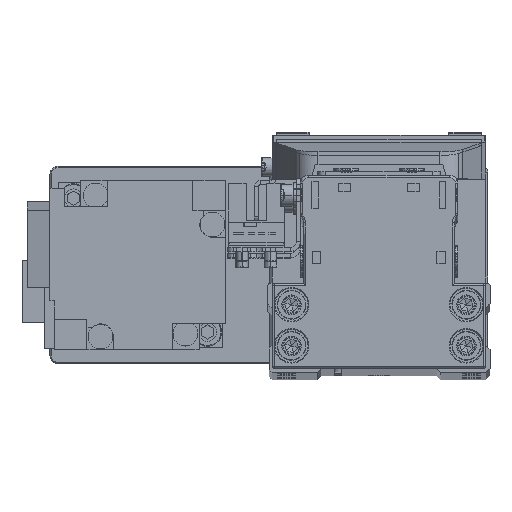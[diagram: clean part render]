
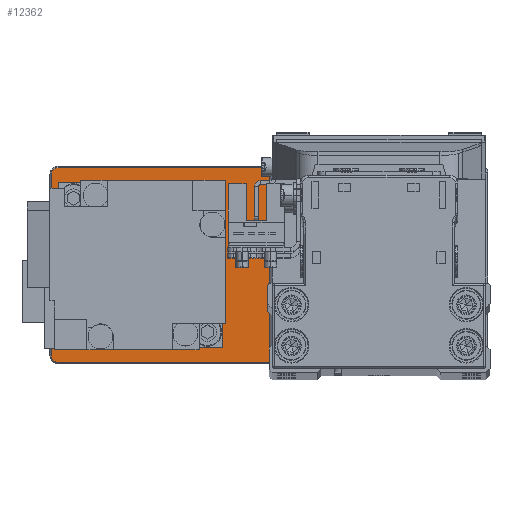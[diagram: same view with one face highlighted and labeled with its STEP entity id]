
A CAD part, top view. The second image highlights one B-rep face of the part: STEP entity #12362.
In plain terms, the highlighted planar face has unit normal (0, 0, 1).
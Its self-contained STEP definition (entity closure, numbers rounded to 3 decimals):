
#210 = LINE ( 'NONE', #12796, #14272 ) ;
#244 = VERTEX_POINT ( 'NONE', #10609 ) ;
#328 = CARTESIAN_POINT ( 'NONE',  ( 50., -22., 5. ) ) ;
#1324 = ORIENTED_EDGE ( 'NONE', *, *, #25779, .T. ) ;
#1518 = EDGE_LOOP ( 'NONE', ( #21519, #24903 ) ) ;
#2108 = CARTESIAN_POINT ( 'NONE',  ( 42.8, 0., 5. ) ) ;
#2549 = DIRECTION ( 'NONE',  ( 1., 0., 0. ) ) ;
#3132 = ORIENTED_EDGE ( 'NONE', *, *, #34735, .T. ) ;
#3897 = CARTESIAN_POINT ( 'NONE',  ( 50., 22., 5. ) ) ;
#4432 = CIRCLE ( 'NONE', #27510, 10.3 ) ;
#4785 = CARTESIAN_POINT ( 'NONE',  ( 30., 0., 5. ) ) ;
#5398 = CARTESIAN_POINT ( 'NONE',  ( 0., 0., 5. ) ) ;
#5582 = DIRECTION ( 'NONE',  ( 1., 0., 0. ) ) ;
#6315 = CIRCLE ( 'NONE', #29400, 12.8 ) ;
#6924 = ORIENTED_EDGE ( 'NONE', *, *, #23974, .T. ) ;
#6986 = VERTEX_POINT ( 'NONE', #17984 ) ;
#7052 = AXIS2_PLACEMENT_3D ( 'NONE', #21288, #33865, #5582 ) ;
#7252 = LINE ( 'NONE', #19867, #33540 ) ;
#7358 = DIRECTION ( 'NONE',  ( 0., 0., -1. ) ) ;
#8052 = VERTEX_POINT ( 'NONE', #22025 ) ;
#8138 = ORIENTED_EDGE ( 'NONE', *, *, #17456, .T. ) ;
#8498 = FACE_BOUND ( 'NONE', #10946, .T. ) ;
#8658 = EDGE_CURVE ( 'NONE', #18617, #18671, #28771, .T. ) ;
#8661 = CIRCLE ( 'NONE', #31740, 12.8 ) ;
#9340 = CARTESIAN_POINT ( 'NONE',  ( -50., 23.7, 5. ) ) ;
#9414 = CARTESIAN_POINT ( 'NONE',  ( -51.7, -22., 5. ) ) ;
#9495 = CIRCLE ( 'NONE', #32573, 1.7 ) ;
#10200 = DIRECTION ( 'NONE',  ( 0., 0., -1. ) ) ;
#10202 = VERTEX_POINT ( 'NONE', #9414 ) ;
#10609 = CARTESIAN_POINT ( 'NONE',  ( 50., -23.7, 5. ) ) ;
#10946 = EDGE_LOOP ( 'NONE', ( #1324, #19285 ) ) ;
#10962 = AXIS2_PLACEMENT_3D ( 'NONE', #18238, #30822, #2549 ) ;
#11042 = DIRECTION ( 'NONE',  ( 0., 0., -1. ) ) ;
#11693 = AXIS2_PLACEMENT_3D ( 'NONE', #5398, #17998, #30592 ) ;
#12167 = CARTESIAN_POINT ( 'NONE',  ( 51.7, -22., 5. ) ) ;
#12217 = LINE ( 'NONE', #24820, #37506 ) ;
#12362 = ADVANCED_FACE ( 'NONE', ( #36767, #8498, #21094 ), #33672, .T. ) ;
#12466 = VERTEX_POINT ( 'NONE', #31404 ) ;
#12796 = CARTESIAN_POINT ( 'NONE',  ( 51.7, 22., 5. ) ) ;
#12908 = DIRECTION ( 'NONE',  ( 0., 0., 1. ) ) ;
#13374 = EDGE_CURVE ( 'NONE', #10202, #6986, #24846, .T. ) ;
#13861 = EDGE_CURVE ( 'NONE', #244, #30724, #40148, .T. ) ;
#14204 = LINE ( 'NONE', #26797, #18999 ) ;
#14272 = VECTOR ( 'NONE', #25390, 1000. ) ;
#14653 = EDGE_LOOP ( 'NONE', ( #6924, #21151, #3132, #26765, #16845, #29183, #8138, #24664 ) ) ;
#15286 = CARTESIAN_POINT ( 'NONE',  ( 17.2, 0., 5. ) ) ;
#16483 = DIRECTION ( 'NONE',  ( 0., 0., 1. ) ) ;
#16562 = EDGE_CURVE ( 'NONE', #35940, #12466, #9495, .T. ) ;
#16845 = ORIENTED_EDGE ( 'NONE', *, *, #24071, .T. ) ;
#17385 = DIRECTION ( 'NONE',  ( 0., 0., -1. ) ) ;
#17456 = EDGE_CURVE ( 'NONE', #18671, #10202, #14204, .T. ) ;
#17984 = CARTESIAN_POINT ( 'NONE',  ( -50., -23.7, 5. ) ) ;
#17998 = DIRECTION ( 'NONE',  ( 0., 0., 1. ) ) ;
#18238 = CARTESIAN_POINT ( 'NONE',  ( -50., 22., 5. ) ) ;
#18617 = VERTEX_POINT ( 'NONE', #9340 ) ;
#18671 = VERTEX_POINT ( 'NONE', #19049 ) ;
#18999 = VECTOR ( 'NONE', #39387, 1000. ) ;
#19049 = CARTESIAN_POINT ( 'NONE',  ( -51.7, 22., 5. ) ) ;
#19285 = ORIENTED_EDGE ( 'NONE', *, *, #35390, .T. ) ;
#19867 = CARTESIAN_POINT ( 'NONE',  ( -50., 23.7, 5. ) ) ;
#19974 = DIRECTION ( 'NONE',  ( 1., 0., 0. ) ) ;
#20303 = VERTEX_POINT ( 'NONE', #15286 ) ;
#21094 = FACE_OUTER_BOUND ( 'NONE', #14653, .T. ) ;
#21151 = ORIENTED_EDGE ( 'NONE', *, *, #13861, .T. ) ;
#21288 = CARTESIAN_POINT ( 'NONE',  ( -50., -22., 5. ) ) ;
#21519 = ORIENTED_EDGE ( 'NONE', *, *, #34009, .T. ) ;
#22025 = CARTESIAN_POINT ( 'NONE',  ( -17.7, 0., 5. ) ) ;
#22379 = AXIS2_PLACEMENT_3D ( 'NONE', #328, #12908, #25506 ) ;
#22796 = DIRECTION ( 'NONE',  ( 1., 0., 0. ) ) ;
#23452 = CARTESIAN_POINT ( 'NONE',  ( -38.3, 0., 5. ) ) ;
#23648 = DIRECTION ( 'NONE',  ( 1., 0., 0. ) ) ;
#23974 = EDGE_CURVE ( 'NONE', #6986, #244, #12217, .T. ) ;
#24071 = EDGE_CURVE ( 'NONE', #12466, #18617, #7252, .T. ) ;
#24664 = ORIENTED_EDGE ( 'NONE', *, *, #13374, .T. ) ;
#24820 = CARTESIAN_POINT ( 'NONE',  ( 50., -23.7, 5. ) ) ;
#24846 = CIRCLE ( 'NONE', #7052, 1.7 ) ;
#24903 = ORIENTED_EDGE ( 'NONE', *, *, #26123, .T. ) ;
#25390 = DIRECTION ( 'NONE',  ( 0., 1., 0. ) ) ;
#25506 = DIRECTION ( 'NONE',  ( 1., 0., 0. ) ) ;
#25779 = EDGE_CURVE ( 'NONE', #8052, #29667, #35017, .T. ) ;
#26123 = EDGE_CURVE ( 'NONE', #20303, #26177, #8661, .T. ) ;
#26177 = VERTEX_POINT ( 'NONE', #2108 ) ;
#26765 = ORIENTED_EDGE ( 'NONE', *, *, #16562, .T. ) ;
#26797 = CARTESIAN_POINT ( 'NONE',  ( -51.7, -22., 5. ) ) ;
#27510 = AXIS2_PLACEMENT_3D ( 'NONE', #35646, #7358, #19974 ) ;
#28771 = CIRCLE ( 'NONE', #10962, 1.7 ) ;
#29077 = DIRECTION ( 'NONE',  ( 1., 0., 0. ) ) ;
#29183 = ORIENTED_EDGE ( 'NONE', *, *, #8658, .T. ) ;
#29400 = AXIS2_PLACEMENT_3D ( 'NONE', #38475, #10200, #22796 ) ;
#29667 = VERTEX_POINT ( 'NONE', #23452 ) ;
#29968 = DIRECTION ( 'NONE',  ( 1., 0., 0. ) ) ;
#30592 = DIRECTION ( 'NONE',  ( 1., 0., 0. ) ) ;
#30724 = VERTEX_POINT ( 'NONE', #12167 ) ;
#30822 = DIRECTION ( 'NONE',  ( 0., 0., 1. ) ) ;
#31404 = CARTESIAN_POINT ( 'NONE',  ( 50., 23.7, 5. ) ) ;
#31740 = AXIS2_PLACEMENT_3D ( 'NONE', #4785, #17385, #29968 ) ;
#32443 = DIRECTION ( 'NONE',  ( -1., 0., 0. ) ) ;
#32573 = AXIS2_PLACEMENT_3D ( 'NONE', #3897, #16483, #29077 ) ;
#33540 = VECTOR ( 'NONE', #32443, 1000. ) ;
#33672 = PLANE ( 'NONE',  #11693 ) ;
#33865 = DIRECTION ( 'NONE',  ( 0., 0., 1. ) ) ;
#34009 = EDGE_CURVE ( 'NONE', #26177, #20303, #6315, .T. ) ;
#34735 = EDGE_CURVE ( 'NONE', #30724, #35940, #210, .T. ) ;
#35017 = CIRCLE ( 'NONE', #40270, 10.3 ) ;
#35390 = EDGE_CURVE ( 'NONE', #29667, #8052, #4432, .T. ) ;
#35646 = CARTESIAN_POINT ( 'NONE',  ( -28., 0., 5. ) ) ;
#35940 = VERTEX_POINT ( 'NONE', #36943 ) ;
#36767 = FACE_BOUND ( 'NONE', #1518, .T. ) ;
#36943 = CARTESIAN_POINT ( 'NONE',  ( 51.7, 22., 5. ) ) ;
#37398 = DIRECTION ( 'NONE',  ( 1., 0., 0. ) ) ;
#37506 = VECTOR ( 'NONE', #37398, 1000. ) ;
#38475 = CARTESIAN_POINT ( 'NONE',  ( 30., 0., 5. ) ) ;
#39319 = CARTESIAN_POINT ( 'NONE',  ( -28., 0., 5. ) ) ;
#39387 = DIRECTION ( 'NONE',  ( 0., -1., 0. ) ) ;
#40148 = CIRCLE ( 'NONE', #22379, 1.7 ) ;
#40270 = AXIS2_PLACEMENT_3D ( 'NONE', #39319, #11042, #23648 ) ;
